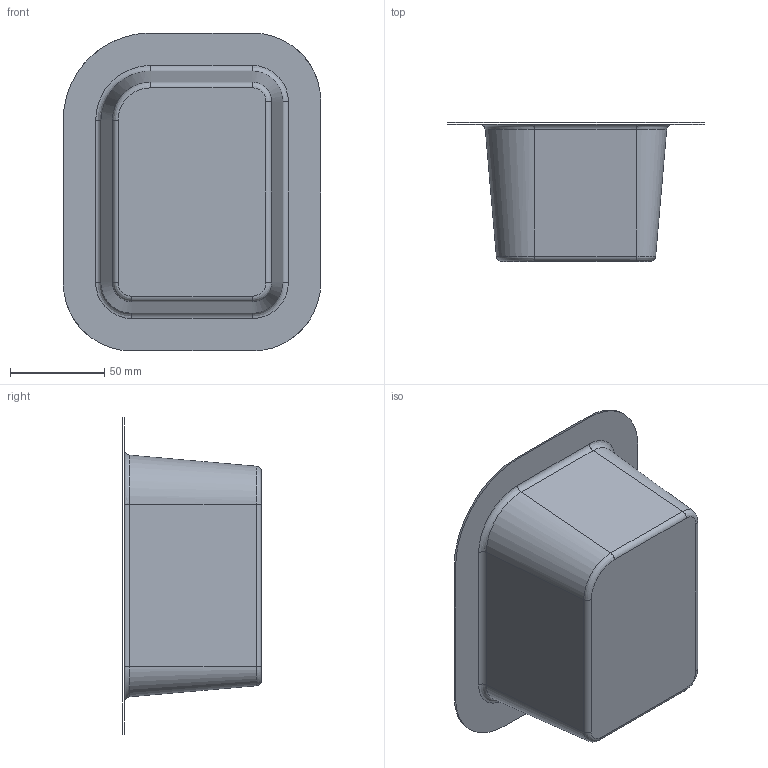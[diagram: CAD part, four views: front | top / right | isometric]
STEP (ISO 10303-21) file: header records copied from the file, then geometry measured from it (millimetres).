
FILE_DESCRIPTION(('CATIA V5 STEP Exchange'),'2;1');
FILE_NAME('C:\_Andres\UNIVERSIDAD\IQS\ASIGNATURAS\DAO\Controles\1617\c3\2inicio\Icart_Martori_control3_v16.stp','2017-02-17T14:22:07+00:00',('none'),('none'),'CATIA Version 5-6 Release 2014 SP1 HF18','CATIA V5 STEP AP203','none');
FILE_SCHEMA(('CONFIG_CONTROL_DESIGN'));
Length unit declared in the file: millimetre
Products named in the file (1): Icart_Martori_control3_v16
Bounding box: 136.72 x 73.72 x 168.72 mm (x, y, z)
Surface area: 69234.7 mm2 (no closed solid volume)
Topology: 0 solids, 2 shells, 27 faces, 80 edges, 57 vertices
Faces by surface type: bspline 16, cylinder 8, plane 3
Entity records: 1928 total; most frequent: CARTESIAN_POINT 1332, ORIENTED_EDGE 128, EDGE_CURVE 72, B_SPLINE_CURVE_WITH_KNOTS 54, DIRECTION 50, VERTEX_POINT 48, EDGE_LOOP 28, ADVANCED_FACE 27
